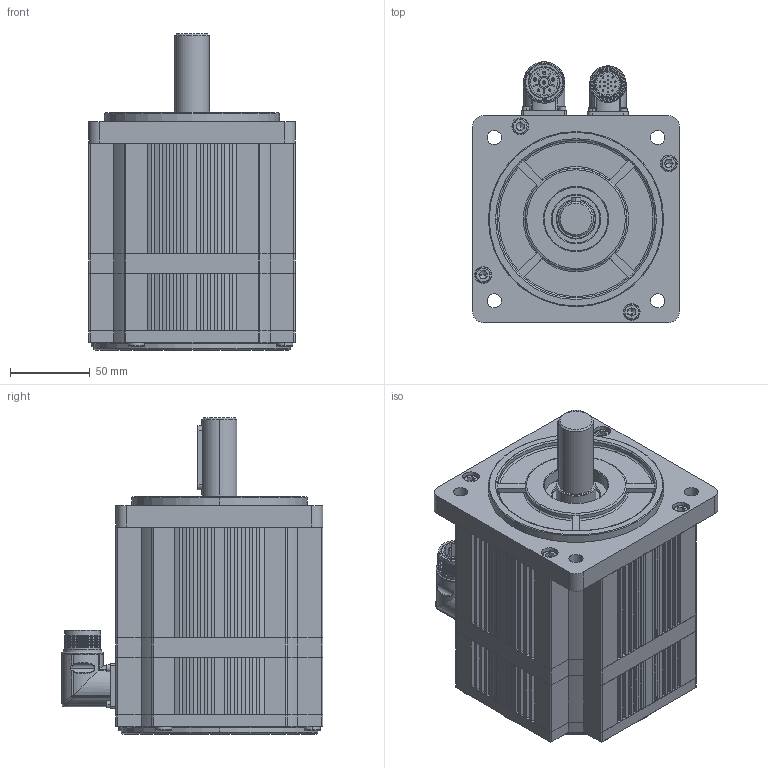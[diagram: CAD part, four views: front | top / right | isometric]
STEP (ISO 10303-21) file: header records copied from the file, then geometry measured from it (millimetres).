
FILE_DESCRIPTION (( 'STEP AP214' ), '1' );
FILE_NAME ('SMC130D-0100-20MAK-5LSP.STEP', '2022-09-02T02:54:03', ( '' ), ( '' ), 'SwSTEP 2.0', 'SolidWorks 2018', '' );
FILE_SCHEMA (( 'AUTOMOTIVE_DESIGN' ));
Length unit declared in the file: millimetre
Products named in the file (12): ぱ籵A倰瑩; hexagon socket head cap screws gb_GB_FASTENER_SCREWS_HSHCS M6X55-N; 鎢攫欶褲极; 郋弊莉萇埭菁釱; 綴傷裔; 郋弊莉陓瘍菁釱; SMC130D-0100-20MAK-5LSP; hexagon socket head cap screws gb_GB_FASTENER_SCREWS_HSHCS M2.5X8-N; 鎢攫欶綴裔; hexagon socket head cap screws gb_GB_FASTENER_SCREWS_HSHCS M6X20-N; 儂褲; ヶ傷裔
Assembly tree (24 placements, depth 2):
  SMC130D-0100-20MAK-5LSP
    ヶ傷裔
    儂褲
    綴傷裔
    鎢攫欶褲极
    鎢攫欶綴裔
    郋弊莉萇埭菁釱
    郋弊莉陓瘍菁釱
    hexagon socket head cap screws gb_GB_FASTENER_SCREWS_HSHCS M2.5X8-N  x8
    hexagon socket head cap screws gb_GB_FASTENER_SCREWS_HSHCS M6X55-N  x4
    ぱ籵A倰瑩
    hexagon socket head cap screws gb_GB_FASTENER_SCREWS_HSHCS M6X20-N  x4
Bounding box: 130 x 164.5 x 198.5 mm (x, y, z)
Volume: 2199233.4 mm3; surface area: 304316.9 mm2
Topology: 48 solids, 48 shells, 1859 faces, 4699 edges, 2975 vertices
Faces by surface type: plane 842, cylinder 778, cone 90, torus 90, sphere 46, bspline 13
Entity records: 59096 total; most frequent: CARTESIAN_POINT 10417, DIRECTION 8403, ORIENTED_EDGE 7714, EDGE_CURVE 3857, AXIS2_PLACEMENT_3D 3146, VERTEX_POINT 2500, LINE 2111, VECTOR 2111
